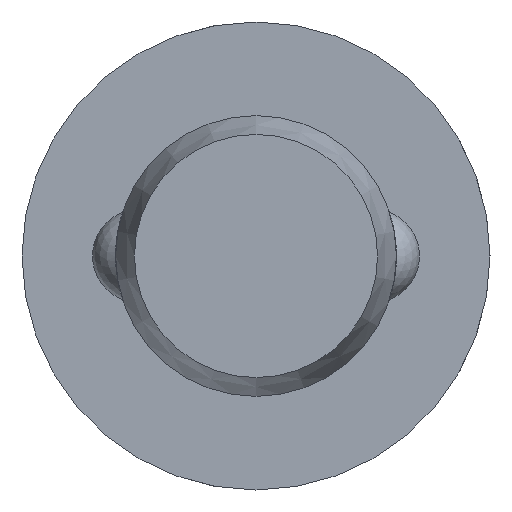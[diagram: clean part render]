
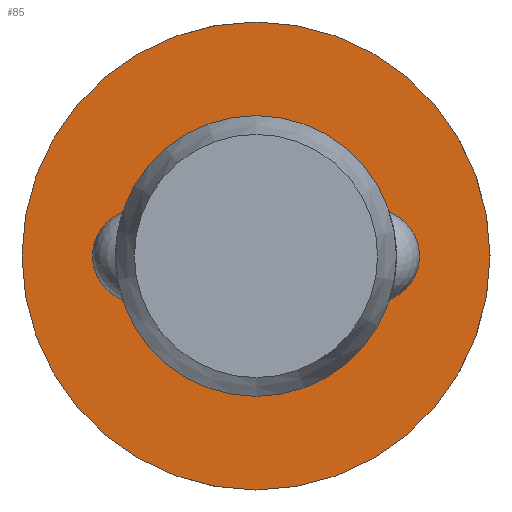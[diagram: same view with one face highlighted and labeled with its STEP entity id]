
A CAD part, left-side view. The second image highlights one B-rep face of the part: STEP entity #85.
In plain terms, the highlighted planar face has unit normal (-1, 0, 0).
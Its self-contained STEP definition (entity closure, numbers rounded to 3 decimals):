
#85 = ADVANCED_FACE( '', ( #131, #132 ), #133, .F. );
#131 = FACE_OUTER_BOUND( '', #204, .T. );
#132 = FACE_BOUND( '', #205, .T. );
#133 = PLANE( '', #206 );
#204 = EDGE_LOOP( '', ( #322 ) );
#205 = EDGE_LOOP( '', ( #323 ) );
#206 = AXIS2_PLACEMENT_3D( '', #324, #325, #326 );
#322 = ORIENTED_EDGE( '', *, *, #470, .F. );
#323 = ORIENTED_EDGE( '', *, *, #467, .T. );
#324 = CARTESIAN_POINT( '', ( 87., 3., 0. ) );
#325 = DIRECTION( '', ( 1., 0., 0. ) );
#326 = DIRECTION( '', ( 0., 0., -1. ) );
#467 = EDGE_CURVE( '', #541, #541, #542, .T. );
#470 = EDGE_CURVE( '', #547, #547, #548, .T. );
#541 = VERTEX_POINT( '', #749 );
#542 = CIRCLE( '', #750, 3. );
#547 = VERTEX_POINT( '', #817 );
#548 = CIRCLE( '', #818, 5. );
#749 = CARTESIAN_POINT( '', ( 87., 0., -3. ) );
#750 = AXIS2_PLACEMENT_3D( '', #897, #898, #899 );
#817 = CARTESIAN_POINT( '', ( 87., 0., -5. ) );
#818 = AXIS2_PLACEMENT_3D( '', #900, #901, #902 );
#897 = CARTESIAN_POINT( '', ( 87., 0., 0. ) );
#898 = DIRECTION( '', ( 1., 0., 0. ) );
#899 = DIRECTION( '', ( 0., 0., -1. ) );
#900 = CARTESIAN_POINT( '', ( 87., 0., 0. ) );
#901 = DIRECTION( '', ( 1., 0., 0. ) );
#902 = DIRECTION( '', ( 0., 0., -1. ) );
